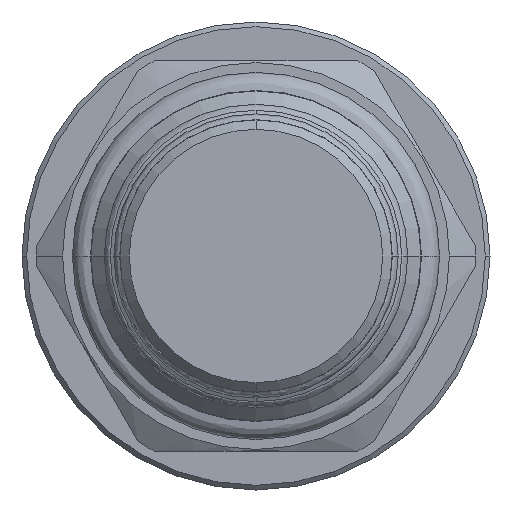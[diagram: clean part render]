
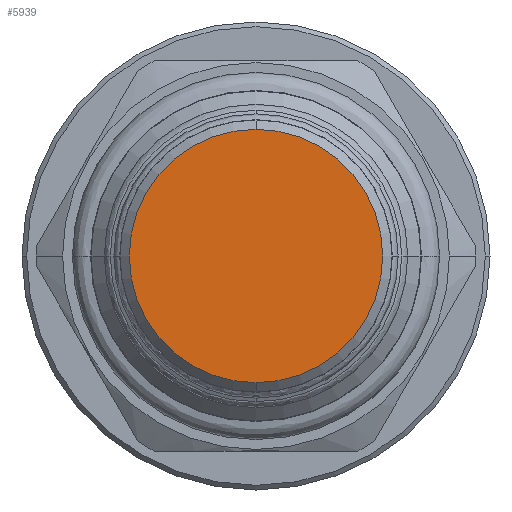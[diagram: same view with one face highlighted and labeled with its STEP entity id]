
A CAD part, front view. The second image highlights one B-rep face of the part: STEP entity #5939.
In plain terms, the highlighted planar face has unit normal (0, -1, 0).
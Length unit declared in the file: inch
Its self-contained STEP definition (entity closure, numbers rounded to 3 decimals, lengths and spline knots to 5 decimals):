
#2344=CARTESIAN_POINT('',(0.,-2.7795,0.));
#2345=DIRECTION('',(0.,1.,0.));
#2346=DIRECTION('',(0.,0.,-1.));
#2347=AXIS2_PLACEMENT_3D('',#2344,#2345,#2346);
#2354=CARTESIAN_POINT('',(0.,-2.7795,0.));
#2355=DIRECTION('',(0.,1.,0.));
#2356=DIRECTION('',(0.,0.,1.));
#2357=AXIS2_PLACEMENT_3D('',#2354,#2355,#2356);
#2618=CARTESIAN_POINT('',(0.,-2.7795,-0.406));
#2619=CARTESIAN_POINT('',(0.,-2.7795,0.406));
#2620=VERTEX_POINT('',#2618);
#2621=VERTEX_POINT('',#2619);
#5929=CARTESIAN_POINT('',(0.,-2.7795,0.));
#5930=DIRECTION('',(0.,-1.,0.));
#5931=DIRECTION('',(0.,0.,-1.));
#5932=AXIS2_PLACEMENT_3D('',#5929,#5930,#5931);
#5933=PLANE('',#5932);
#5935=ORIENTED_EDGE('',*,*,#5934,.T.);
#5936=ORIENTED_EDGE('',*,*,#5919,.T.);
#5937=EDGE_LOOP('',(#5935,#5936));
#5938=FACE_OUTER_BOUND('',#5937,.F.);
#5939=ADVANCED_FACE('',(#5938),#5933,.T.);
#2348=CIRCLE('',#2347,0.406);
#2358=CIRCLE('',#2357,0.406);
#5919=EDGE_CURVE('',#2620,#2621,#2348,.T.);
#5934=EDGE_CURVE('',#2621,#2620,#2358,.T.);
